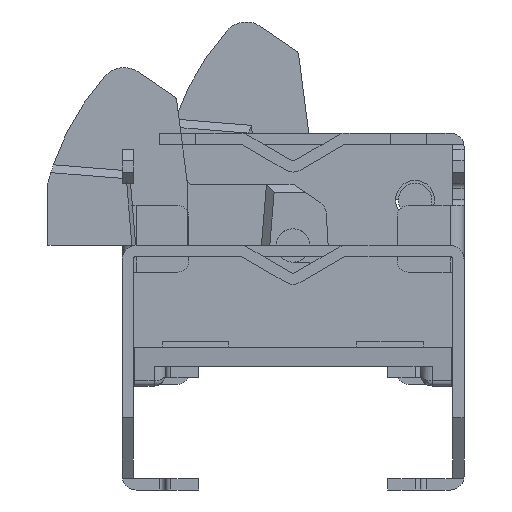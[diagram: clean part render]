
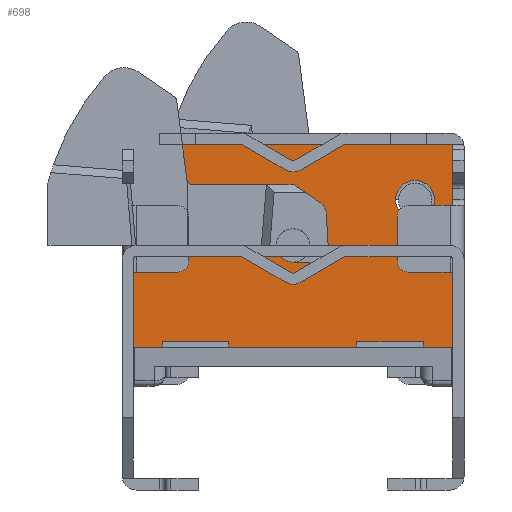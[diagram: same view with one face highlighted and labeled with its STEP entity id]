
A CAD part, front view. The second image highlights one B-rep face of the part: STEP entity #698.
In plain terms, the highlighted planar face has unit normal (0, -1, 0).
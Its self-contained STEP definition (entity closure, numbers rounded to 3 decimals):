
#698 = ADVANCED_FACE( '', ( #1429, #1430 ), #1431, .F. );
#1429 = FACE_BOUND( '', #2331, .T. );
#1430 = FACE_OUTER_BOUND( '', #2332, .T. );
#1431 = PLANE( '', #2333 );
#2331 = EDGE_LOOP( '', ( #4363 ) );
#2332 = EDGE_LOOP( '', ( #4364, #4365, #4366, #4367 ) );
#2333 = AXIS2_PLACEMENT_3D( '', #4368, #4369, #4370 );
#4363 = ORIENTED_EDGE( '', *, *, #5958, .T. );
#4364 = ORIENTED_EDGE( '', *, *, #5647, .T. );
#4365 = ORIENTED_EDGE( '', *, *, #5959, .F. );
#4366 = ORIENTED_EDGE( '', *, *, #5960, .F. );
#4367 = ORIENTED_EDGE( '', *, *, #5961, .T. );
#4368 = CARTESIAN_POINT( '', ( -2.875, 0., 1.82 ) );
#4369 = DIRECTION( '', ( 0., 1., 0. ) );
#4370 = DIRECTION( '', ( 0., 0., 1. ) );
#5647 = EDGE_CURVE( '', #7043, #7040, #7044, .T. );
#5958 = EDGE_CURVE( '', #7452, #7452, #7453, .T. );
#5959 = EDGE_CURVE( '', #7454, #7040, #7455, .T. );
#5960 = EDGE_CURVE( '', #7456, #7454, #7457, .T. );
#5961 = EDGE_CURVE( '', #7456, #7043, #7458, .T. );
#7040 = VERTEX_POINT( '', #9101 );
#7043 = VERTEX_POINT( '', #9105 );
#7044 = LINE( '', #9106, #9107 );
#7452 = VERTEX_POINT( '', #9715 );
#7453 = CIRCLE( '', #9716, 0.35 );
#7454 = VERTEX_POINT( '', #9717 );
#7455 = LINE( '', #9718, #9719 );
#7456 = VERTEX_POINT( '', #9720 );
#7457 = LINE( '', #9721, #9722 );
#7458 = LINE( '', #9723, #9724 );
#9101 = CARTESIAN_POINT( '', ( 2.875, 0., -1.831 ) );
#9105 = CARTESIAN_POINT( '', ( -2.875, 0., -1.831 ) );
#9106 = CARTESIAN_POINT( '', ( -2.875, 0., -1.831 ) );
#9107 = VECTOR( '', #10639, 1000. );
#9715 = CARTESIAN_POINT( '', ( 2.545, 0., 0.82 ) );
#9716 = AXIS2_PLACEMENT_3D( '', #10945, #10946, #10947 );
#9717 = CARTESIAN_POINT( '', ( 2.875, 0., 1.82 ) );
#9718 = CARTESIAN_POINT( '', ( 2.875, 0., 1.82 ) );
#9719 = VECTOR( '', #10948, 1000. );
#9720 = CARTESIAN_POINT( '', ( -2.875, 0., 1.82 ) );
#9721 = CARTESIAN_POINT( '', ( -2.875, 0., 1.82 ) );
#9722 = VECTOR( '', #10949, 1000. );
#9723 = CARTESIAN_POINT( '', ( -2.875, 0., 1.82 ) );
#9724 = VECTOR( '', #10950, 1000. );
#10639 = DIRECTION( '', ( 1., 0., 0. ) );
#10945 = CARTESIAN_POINT( '', ( 2.195, 0., 0.82 ) );
#10946 = DIRECTION( '', ( 0., 1., 0. ) );
#10947 = DIRECTION( '', ( 1., 0., 0. ) );
#10948 = DIRECTION( '', ( 0., 0., -1. ) );
#10949 = DIRECTION( '', ( 1., 0., 0. ) );
#10950 = DIRECTION( '', ( 0., 0., -1. ) );
